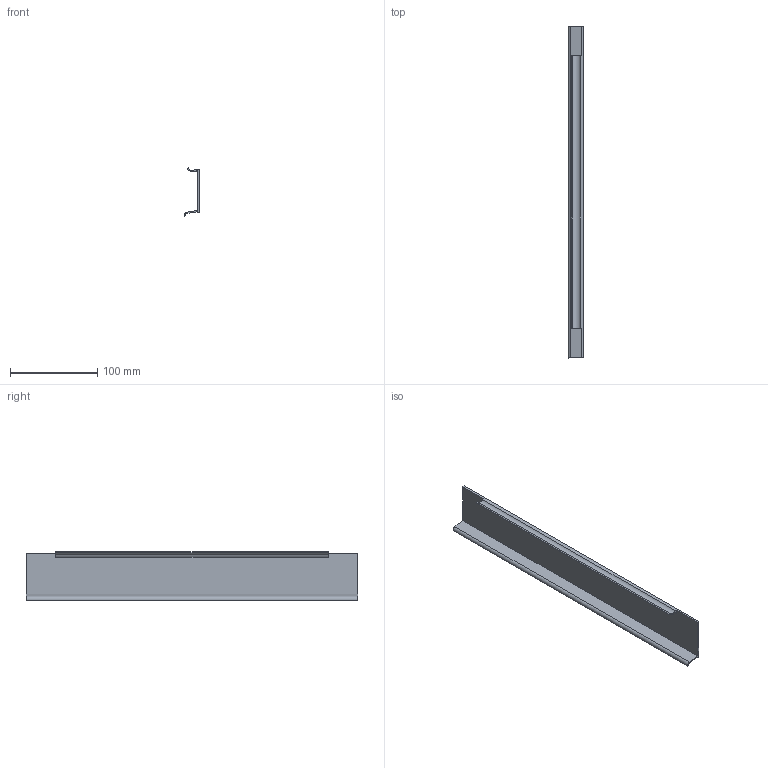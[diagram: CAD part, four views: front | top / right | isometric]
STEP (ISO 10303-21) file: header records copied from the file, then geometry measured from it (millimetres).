
FILE_DESCRIPTION (( 'STEP AP214' ), '1' );
FILE_NAME ('Sidecover_NL-400.step', '2010-09-21T06:52:13', ( 'grass' ), ( '' ), 'SwSTEP 2.0', 'SolidWorks 2010', '' );
FILE_SCHEMA (( 'AUTOMOTIVE_DESIGN' ));
Length unit declared in the file: millimetre
Products named in the file (1): Sidecover_NL-400
Bounding box: 18.14 x 379.5 x 54.9 mm (x, y, z)
Volume: 62030.3 mm3; surface area: 60639.7 mm2
Topology: 1 solids, 1 shells, 19 faces, 51 edges, 34 vertices
Faces by surface type: plane 14, cylinder 5
Entity records: 629 total; most frequent: CARTESIAN_POINT 105, ORIENTED_EDGE 102, DIRECTION 101, EDGE_CURVE 51, LINE 41, VECTOR 41, VERTEX_POINT 34, AXIS2_PLACEMENT_3D 30
